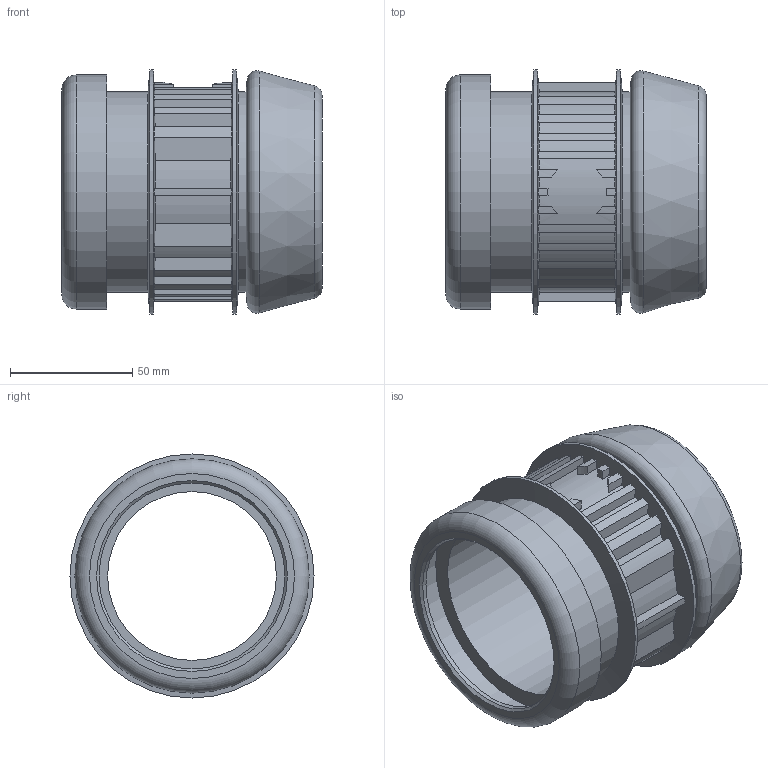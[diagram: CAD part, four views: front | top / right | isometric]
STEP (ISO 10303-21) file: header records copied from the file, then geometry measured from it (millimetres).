
FILE_DESCRIPTION(/* description */ (''),/* implementation_level */ '2;1');
FILE_NAME(/* name */ 'Z:\Geberit\Export\NewStep\307002.stp',/* time_stamp */ '2014-04-01T20:04:17+02:00',/* author */ ('ML'),/* organization */ (''),/* preprocessor_version */ 'ST-DEVELOPER v15.2',/* originating_system */ 'Autodesk Inventor 2014',/* authorisation */ '');
FILE_SCHEMA (('AUTOMOTIVE_DESIGN { 1 0 10303 214 3 1 1 }'));
Length unit declared in the file: millimetre
Products named in the file (1): 307002
Bounding box: 106.7 x 100 x 100 mm (x, y, z)
Volume: 131716.6 mm3; surface area: 85917.5 mm2
Topology: 1 solids, 1 shells, 140 faces, 383 edges, 249 vertices
Faces by surface type: cylinder 65, plane 60, cone 11, torus 4
Full cylindrical faces by diameter (mm): 69.2 x1, 76.2 x4, 82.2 x2, 89.9 x1, 96 x1, 100 x2
Entity records: 4399 total; most frequent: CARTESIAN_POINT 995, ORIENTED_EDGE 710, DIRECTION 656, EDGE_CURVE 355, AXIS2_PLACEMENT_3D 268, VERTEX_POINT 247, EDGE_LOOP 172, STYLED_ITEM 141
